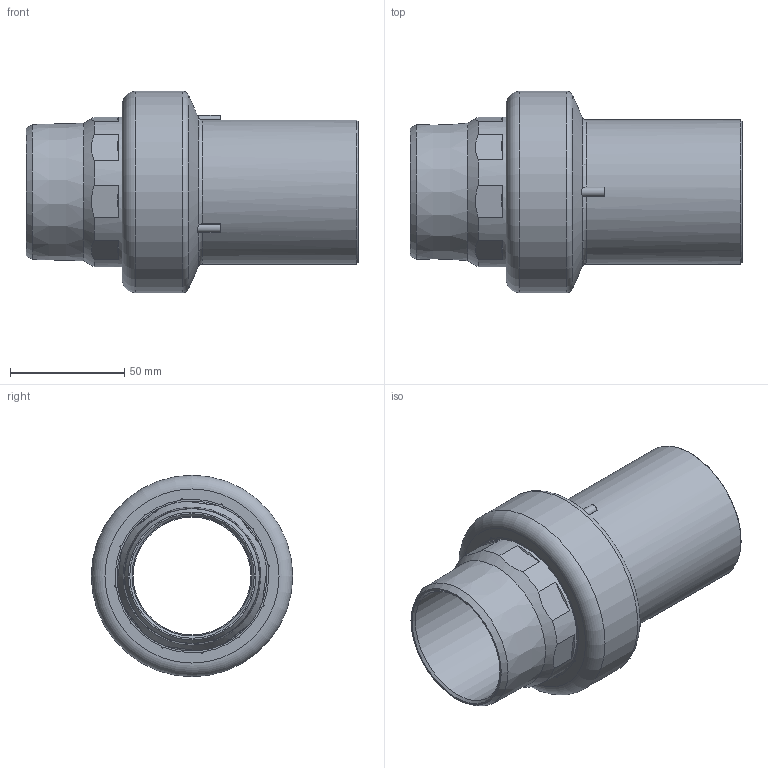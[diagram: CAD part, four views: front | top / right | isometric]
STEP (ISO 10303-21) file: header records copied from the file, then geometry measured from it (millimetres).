
FILE_DESCRIPTION(/* description */ ('Unknown'),/* implementation_level */ '2;1');
FILE_NAME(/* name */ 'RTOMP063C',/* time_stamp */ '2021-03-01T17:33:13+01:00',/* author */ ('Unknown'),/* organization */ ('Unknown'),/* preprocessor_version */ 'ST-DEVELOPER v16.7',/* originating_system */ 'Solid Edge',/* authorisation */ 'Unknown');
FILE_SCHEMA (('AUTOMOTIVE_DESIGN {1 0 10303 214 3 1 1}'));
Length unit declared in the file: millimetre
Products named in the file (3): RTOMP063C; Parte PE 063; IOM063C
Assembly tree (2 placements, depth 2):
  RTOMP063C
    Parte PE 063
    IOM063C
Bounding box: 145 x 88 x 88 mm (x, y, z)
Volume: 228712.1 mm3; surface area: 83871.5 mm2
Topology: 2 solids, 2 shells, 400 faces, 1128 edges, 742 vertices
Faces by surface type: cylinder 182, cone 100, plane 73, bspline 27, torus 18
Full cylindrical faces by diameter (mm): 51.4 x1, 52.4 x1, 55.6 x2, 60 x2, 60.2 x2, 63 x1, 65.5 x1, 69.8 x2, 74 x4, 88 x1
Entity records: 18146 total; most frequent: CARTESIAN_POINT 7587, ORIENTED_EDGE 2152, DIRECTION 1608, EDGE_CURVE 1076, VERTEX_POINT 724, AXIS2_PLACEMENT_3D 718, B_SPLINE_CURVE_WITH_KNOTS 514, EDGE_LOOP 448
